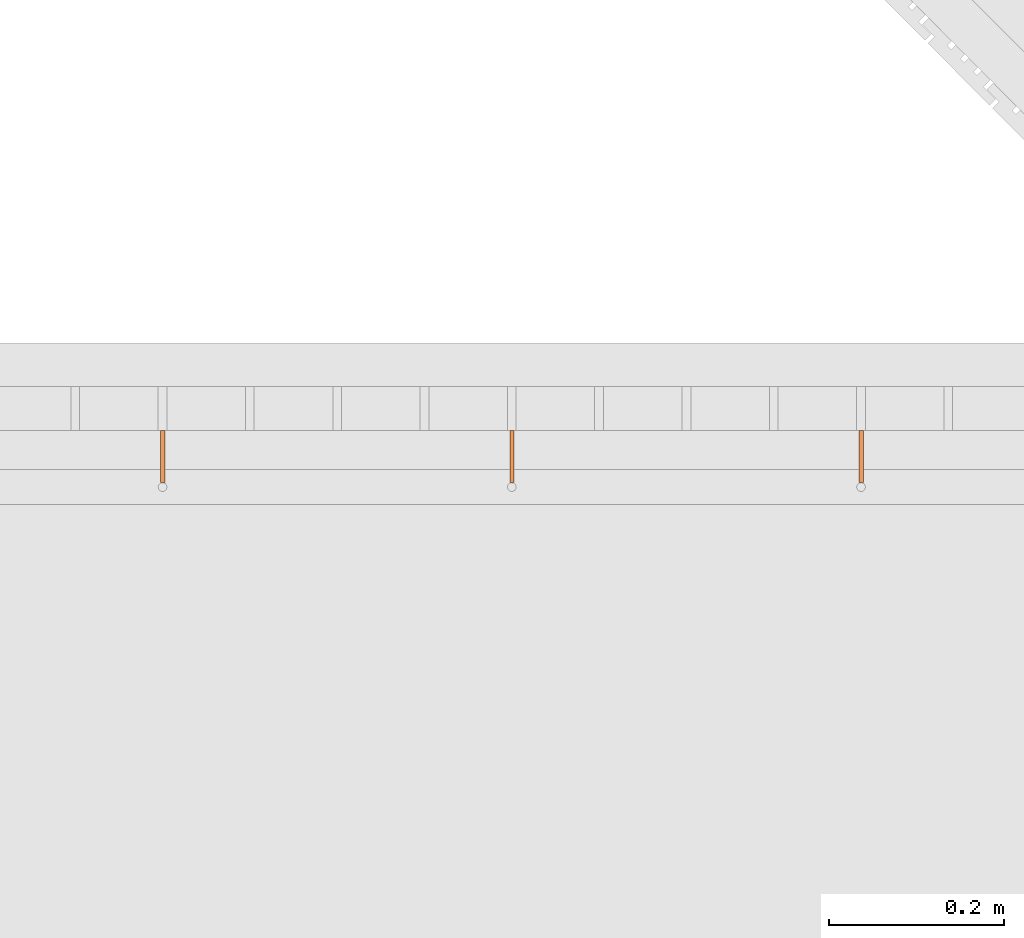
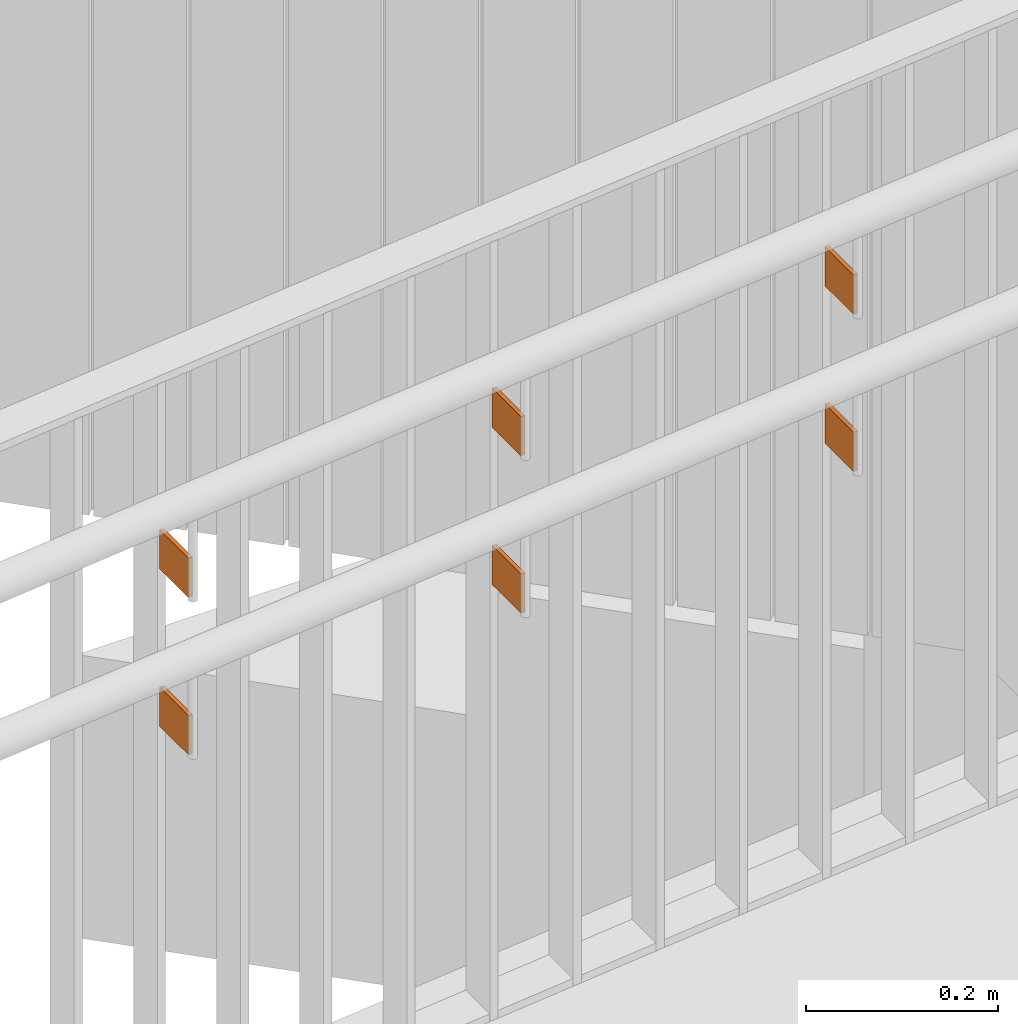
# One storey, part 380 of 418: 6 proxies.
"""IFC2X3 building model written with IfcOpenShell, lengths in millimetres."""

from ifc_helpers import new_model, entity, si_unit, converted_unit, derived_unit, money_unit, direction, frame, origin_with_axes, place, context, subcontext, project, spatial, polyline, outline, extrude, material, type_object, element, save


model = new_model("IFC2X3")

# Units and contexts
model_context = context("Model", 3, precision=0.01, world=origin_with_axes(), true_north=direction((0.0, 1.0)))
body_context = subcontext(model_context, "Body", "Model", "MODEL_VIEW")
ifc_project = project(units=[si_unit("LENGTHUNIT", "METRE", prefix="MILLI"), si_unit("AREAUNIT", "SQUARE_METRE"), si_unit("VOLUMEUNIT", "CUBIC_METRE"), converted_unit("PLANEANGLEUNIT", "DEGREE", entity("IfcPlaneAngleMeasure", 0.0174532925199), si_unit("PLANEANGLEUNIT", "RADIAN"), dimensions=[0, 0, 0, 0, 0, 0, 0]), si_unit("SOLIDANGLEUNIT", "STERADIAN"), money_unit("EUR"), converted_unit("TIMEUNIT", "Year", entity("IfcTimeMeasure", 31556926.0), si_unit("TIMEUNIT", "SECOND"), dimensions=[0, 0, 1, 0, 0, 0, 0]), si_unit("MASSUNIT", "GRAM", prefix="KILO"), si_unit("THERMODYNAMICTEMPERATUREUNIT", "DEGREE_CELSIUS"), si_unit("LUMINOUSINTENSITYUNIT", "LUMEN"), si_unit("ENERGYUNIT", "JOULE", prefix="MEGA"), derived_unit("THERMALCONDUCTANCEUNIT", [(si_unit("POWERUNIT", "WATT"), 1), (si_unit("LENGTHUNIT", "METRE"), -1), (si_unit("THERMODYNAMICTEMPERATUREUNIT", "KELVIN"), -1)]), derived_unit("SPECIFICHEATCAPACITYUNIT", [(si_unit("ENERGYUNIT", "JOULE"), 1), (si_unit("MASSUNIT", "GRAM", prefix="KILO"), -1), (si_unit("THERMODYNAMICTEMPERATUREUNIT", "KELVIN"), -1)]), derived_unit("MASSDENSITYUNIT", [(si_unit("MASSUNIT", "GRAM", prefix="KILO"), 1), (si_unit("VOLUMEUNIT", "CUBIC_METRE"), -1)])], contexts=[model_context])

# Site, building, storey
site_placement = place(None, origin_with_axes())
site = spatial("IfcSite", under=ifc_project, at=site_placement, Name="Paldiski mnt 245/1, Tallinn, Harjumaa", CompositionType="COMPLEX")
building_placement = place(site_placement, origin_with_axes())
building = spatial("IfcBuilding", under=site, at=building_placement, Name="RKAS Hoone üldnimetus (kasutust iseloomustav) -> IFC Project Manager -> SOLIBRI", CompositionType="ELEMENT")
storey_placement = place(building_placement, origin_with_axes())
storey = spatial("IfcBuildingStorey", under=building, at=storey_placement, Name="Esimene korrus", CompositionType="ELEMENT", Elevation=0.0)

# Proxies
ifc_material = material(Name="RAL 7011 Tumehall")
building_element_proxy_type = type_object("IfcBuildingElementProxyType", Name="RAL 7011 Tumehall 50", PredefinedType="NOTDEFINED")
proxy_1_placement = place(storey_placement, frame((-53720.5090291, 38489.7311931, 753.953624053), z_axis=(0.0, 0.0, 1.0), x_axis=(1.0, 0.0, 0.0)))
element("IfcBuildingElementProxy", 1, at=proxy_1_placement, inside=storey, type_object=building_element_proxy_type, material=ifc_material, Name="Piire", context=body_context, shape_type="SweptSolid", body=[
    extrude(outline(polyline([(0.0, 0.0), (-5.0, 0.0), (-5.0, -60.0), (0.0, -60.0), (0.0, 0.0)])), frame((0.0, 0.0, -50.0), z_axis=(0.0, 0.0, 1.0), x_axis=(1.0, 0.0, 0.0)), (0.0, 0.0, 1.0), 50.0),
])
proxy_2_placement = place(storey_placement, frame((-53720.5088306, 38489.7311931, 553.953574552), z_axis=(0.0, 0.0, 1.0), x_axis=(1.0, 0.0, 0.0)))
element("IfcBuildingElementProxy", 2, at=proxy_2_placement, inside=storey, type_object=building_element_proxy_type, material=ifc_material, Name="Piire", context=body_context, shape_type="SweptSolid", body=[
    extrude(outline(polyline([(0.0, 0.0), (-5.00000000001, 0.0), (-5.0, -60.0), (0.0, -60.0), (0.0, 0.0)])), frame((0.0, 0.0, -50.0), z_axis=(0.0, 0.0, 1.0), x_axis=(1.0, 0.0, 0.0)), (0.0, 0.0, 1.0), 50.0),
])
proxy_3_placement = place(storey_placement, frame((-54120.5597323, 38489.7311931, 713.948553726), z_axis=(0.0, 0.0, 1.0), x_axis=(1.0, 0.0, 0.0)))
element("IfcBuildingElementProxy", 3, at=proxy_3_placement, inside=storey, type_object=building_element_proxy_type, material=ifc_material, Name="Piire", context=body_context, shape_type="SweptSolid", body=[
    extrude(outline(polyline([(0.0, 0.0), (-5.0, 0.0), (-5.00000000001, -60.0), (0.0, -60.0), (0.0, 0.0)])), frame((0.0, 0.0, -50.0), z_axis=(0.0, 0.0, 1.0), x_axis=(1.0, 0.0, 0.0)), (0.0, 0.0, 1.0), 50.0),
])
proxy_4_placement = place(storey_placement, frame((-54120.5595337, 38489.7311931, 513.948504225), z_axis=(0.0, 0.0, 1.0), x_axis=(1.0, 0.0, 0.0)))
element("IfcBuildingElementProxy", 4, at=proxy_4_placement, inside=storey, type_object=building_element_proxy_type, material=ifc_material, Name="Piire", context=body_context, shape_type="SweptSolid", body=[
    extrude(outline(polyline([(0.0, 0.0), (-5.00000000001, 0.0), (-5.00000000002, -60.0), (0.0, -60.0), (0.0, 0.0)])), frame((0.0, 0.0, -50.0), z_axis=(0.0, 0.0, 1.0), x_axis=(1.0, 0.0, 0.0)), (0.0, 0.0, 1.0), 50.0),
])
proxy_5_placement = place(storey_placement, frame((-54520.5597323, 38489.7311931, 673.948553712), z_axis=(0.0, 0.0, 1.0), x_axis=(1.0, 0.0, 0.0)))
element("IfcBuildingElementProxy", 5, at=proxy_5_placement, inside=storey, type_object=building_element_proxy_type, material=ifc_material, Name="Piire", context=body_context, shape_type="SweptSolid", body=[
    extrude(outline(polyline([(0.0, 0.0), (-5.0, 0.0), (-5.00000000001, -60.0), (0.0, -60.0), (0.0, 0.0)])), frame((0.0, 0.0, -50.0), z_axis=(0.0, 0.0, 1.0), x_axis=(1.0, 0.0, 0.0)), (0.0, 0.0, 1.0), 50.0),
])
proxy_6_placement = place(storey_placement, frame((-54520.5595337, 38489.7311931, 473.948504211), z_axis=(0.0, 0.0, 1.0), x_axis=(1.0, 0.0, 0.0)))
element("IfcBuildingElementProxy", 6, at=proxy_6_placement, inside=storey, type_object=building_element_proxy_type, material=ifc_material, Name="Piire", context=body_context, shape_type="SweptSolid", body=[
    extrude(outline(polyline([(0.0, 0.0), (-4.99999999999, 0.0), (-5.00000000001, -60.0), (0.0, -60.0), (0.0, 0.0)])), frame((0.0, 0.0, -50.0), z_axis=(0.0, 0.0, 1.0), x_axis=(1.0, 0.0, 0.0)), (0.0, 0.0, 1.0), 50.0),
])

save(model, "model.ifc")
